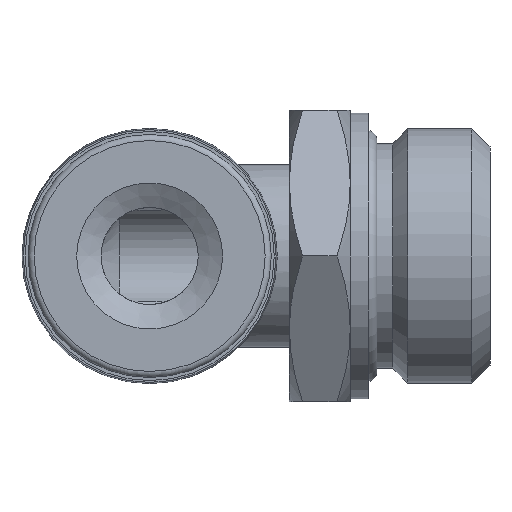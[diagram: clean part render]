
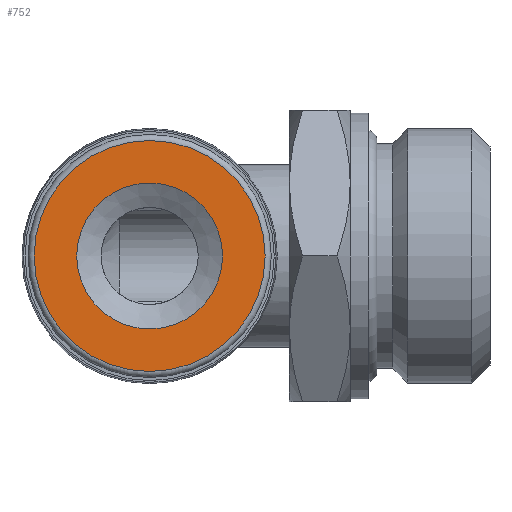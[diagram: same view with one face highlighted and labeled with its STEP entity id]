
A CAD part, left-side view. The second image highlights one B-rep face of the part: STEP entity #752.
In plain terms, the highlighted planar face has unit normal (-1, 0, 0).
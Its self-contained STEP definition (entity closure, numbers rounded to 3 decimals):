
#101=PLANE('',#824);
#179=FACE_BOUND('',#282,.T.);
#214=FACE_OUTER_BOUND('',#281,.T.);
#281=EDGE_LOOP('',(#577));
#282=EDGE_LOOP('',(#578));
#368=CIRCLE('',#822,9.5);
#370=CIRCLE('',#825,6.);
#416=VERTEX_POINT('',#1185);
#418=VERTEX_POINT('',#1190);
#481=EDGE_CURVE('',#416,#416,#368,.T.);
#483=EDGE_CURVE('',#418,#418,#370,.T.);
#577=ORIENTED_EDGE('',*,*,#481,.F.);
#578=ORIENTED_EDGE('',*,*,#483,.T.);
#752=ADVANCED_FACE('',(#214,#179),#101,.T.);
#822=AXIS2_PLACEMENT_3D('',#1186,#956,#957);
#824=AXIS2_PLACEMENT_3D('',#1189,#960,#961);
#825=AXIS2_PLACEMENT_3D('',#1191,#962,#963);
#956=DIRECTION('center_axis',(1.,0.,0.));
#957=DIRECTION('ref_axis',(0.,-1.,0.));
#960=DIRECTION('center_axis',(-1.,0.,0.));
#961=DIRECTION('ref_axis',(0.,0.,1.));
#962=DIRECTION('center_axis',(1.,0.,0.));
#963=DIRECTION('ref_axis',(0.,0.,-1.));
#1185=CARTESIAN_POINT('',(-29.5,9.5,0.));
#1186=CARTESIAN_POINT('Origin',(-29.5,0.,0.));
#1189=CARTESIAN_POINT('Origin',(-29.5,10.,0.));
#1190=CARTESIAN_POINT('',(-29.5,6.,0.));
#1191=CARTESIAN_POINT('Origin',(-29.5,0.,0.));
